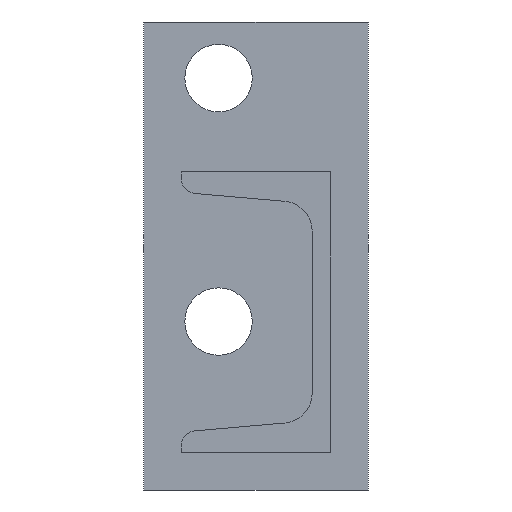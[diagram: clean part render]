
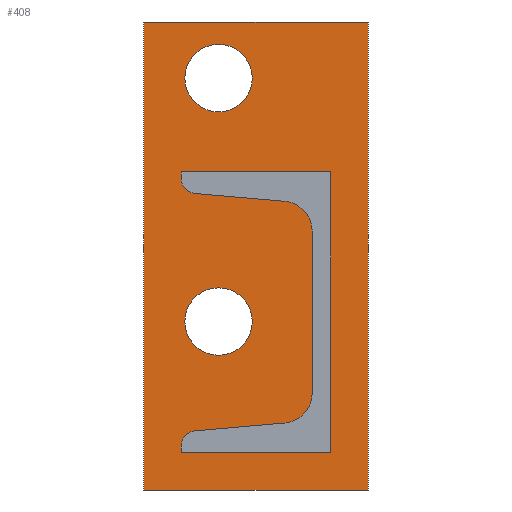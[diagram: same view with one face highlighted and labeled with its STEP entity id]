
A CAD part, front view. The second image highlights one B-rep face of the part: STEP entity #408.
In plain terms, the highlighted planar face has unit normal (0, -1, 0).
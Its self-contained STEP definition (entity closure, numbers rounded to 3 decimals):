
#17=FACE_BOUND('',#75,.T.);
#18=FACE_BOUND('',#76,.T.);
#50=FACE_OUTER_BOUND('',#74,.T.);
#74=EDGE_LOOP('',(#353,#354,#355,#356));
#75=EDGE_LOOP('',(#357));
#76=EDGE_LOOP('',(#358));
#89=CIRCLE('',#452,9.);
#91=CIRCLE('',#455,9.);
#127=LINE('',#680,#169);
#128=LINE('',#682,#170);
#129=LINE('',#684,#171);
#130=LINE('',#685,#172);
#169=VECTOR('',#562,10.);
#170=VECTOR('',#563,10.);
#171=VECTOR('',#564,10.);
#172=VECTOR('',#565,10.);
#201=VERTEX_POINT('',#657);
#203=VERTEX_POINT('',#663);
#209=VERTEX_POINT('',#678);
#210=VERTEX_POINT('',#679);
#211=VERTEX_POINT('',#681);
#212=VERTEX_POINT('',#683);
#249=EDGE_CURVE('',#201,#201,#89,.T.);
#252=EDGE_CURVE('',#203,#203,#91,.T.);
#259=EDGE_CURVE('',#209,#210,#127,.T.);
#260=EDGE_CURVE('',#210,#211,#128,.T.);
#261=EDGE_CURVE('',#211,#212,#129,.T.);
#262=EDGE_CURVE('',#212,#209,#130,.T.);
#353=ORIENTED_EDGE('',*,*,#259,.T.);
#354=ORIENTED_EDGE('',*,*,#260,.T.);
#355=ORIENTED_EDGE('',*,*,#261,.T.);
#356=ORIENTED_EDGE('',*,*,#262,.T.);
#357=ORIENTED_EDGE('',*,*,#249,.T.);
#358=ORIENTED_EDGE('',*,*,#252,.T.);
#386=PLANE('',#458);
#408=ADVANCED_FACE('',(#50,#17,#18),#386,.F.);
#452=AXIS2_PLACEMENT_3D('',#658,#542,#543);
#455=AXIS2_PLACEMENT_3D('',#664,#549,#550);
#458=AXIS2_PLACEMENT_3D('',#677,#560,#561);
#542=DIRECTION('center_axis',(0.,1.,0.));
#543=DIRECTION('ref_axis',(1.,0.,0.));
#549=DIRECTION('center_axis',(0.,1.,0.));
#550=DIRECTION('ref_axis',(1.,0.,0.));
#560=DIRECTION('center_axis',(0.,1.,0.));
#561=DIRECTION('ref_axis',(0.,0.,-1.));
#562=DIRECTION('',(1.,0.,0.));
#563=DIRECTION('',(0.,0.,1.));
#564=DIRECTION('',(-1.,0.,0.));
#565=DIRECTION('',(0.,0.,-1.));
#657=CARTESIAN_POINT('',(11.,0.,-80.));
#658=CARTESIAN_POINT('Origin',(20.,0.,-80.));
#663=CARTESIAN_POINT('',(11.,0.,-15.));
#664=CARTESIAN_POINT('Origin',(20.,0.,-15.));
#677=CARTESIAN_POINT('Origin',(30.,0.,-62.5));
#678=CARTESIAN_POINT('',(0.,0.,-125.));
#679=CARTESIAN_POINT('',(60.,0.,-125.));
#680=CARTESIAN_POINT('',(30.,0.,-125.));
#681=CARTESIAN_POINT('',(60.,0.,0.));
#682=CARTESIAN_POINT('',(60.,0.,-62.5));
#683=CARTESIAN_POINT('',(0.,0.,0.));
#684=CARTESIAN_POINT('',(30.,0.,0.));
#685=CARTESIAN_POINT('',(0.,0.,-62.5));
